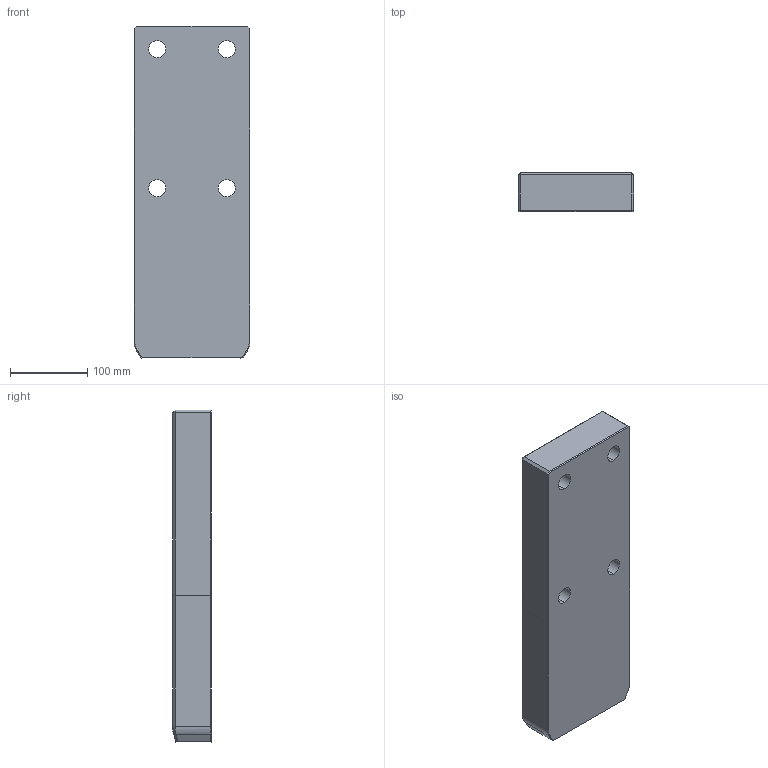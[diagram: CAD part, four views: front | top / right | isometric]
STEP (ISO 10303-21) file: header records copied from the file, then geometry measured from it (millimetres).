
FILE_DESCRIPTION((''),'2;1');
FILE_NAME('','2010-09-08T12:59:11+09:00',('misumi'),(''),'M/STEP i/f 1R2-14','CADmeister v5.1','');
FILE_SCHEMA(('AUTOMOTIVE_DESIGN'));
Length unit declared in the file: millimetre
Products named in the file (1): OGP150-430
Bounding box: 150 x 50 x 430 mm (x, y, z)
Volume: 3129136.1 mm3; surface area: 194881.1 mm2
Topology: 1 solids, 1 shells, 53 faces, 128 edges, 78 vertices
Faces by surface type: plane 32, cylinder 13, bspline 6, cone 2
Entity records: 1903 total; most frequent: CARTESIAN_POINT 598, ORIENTED_EDGE 248, DIRECTION 234, EDGE_CURVE 124, LINE 82, VECTOR 82, AXIS2_PLACEMENT_3D 76, VERTEX_POINT 74
